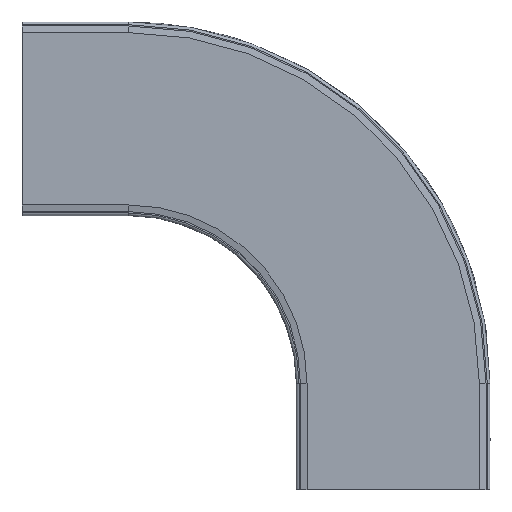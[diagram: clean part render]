
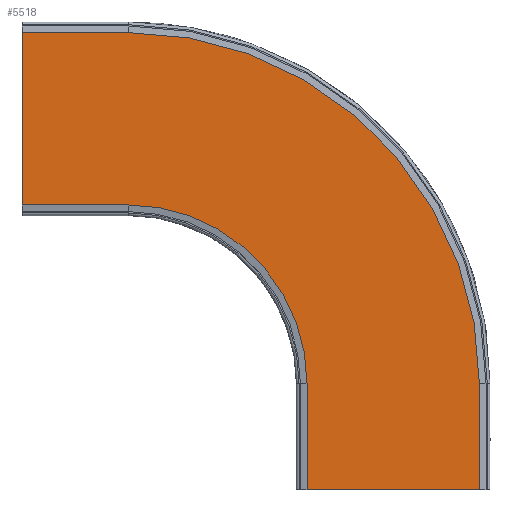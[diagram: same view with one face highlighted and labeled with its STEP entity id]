
A CAD part, front view. The second image highlights one B-rep face of the part: STEP entity #5518.
In plain terms, the highlighted planar face has unit normal (0, -1, 0).
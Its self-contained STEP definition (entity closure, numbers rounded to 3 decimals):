
#5213=CARTESIAN_POINT('',(104.,-74.,0.0));
#5214=VERTEX_POINT('',#5213);
#5221=CARTESIAN_POINT('',(-26.,-74.,0.0));
#5222=VERTEX_POINT('',#5221);
#5223=CARTESIAN_POINT('',(-26.,-74.,0.0));
#5224=DIRECTION('',(1.0,0.0,0.0));
#5225=VECTOR('',#5224,130.);
#5226=LINE('',#5223,#5225);
#5227=EDGE_CURVE('',#5222,#5214,#5226,.T.);
#5282=CARTESIAN_POINT('',(-26.,-74.,80.0));
#5283=VERTEX_POINT('',#5282);
#5292=CARTESIAN_POINT('',(-26.,-74.,0.0));
#5293=DIRECTION('',(0.0,0.0,1.0));
#5294=VECTOR('',#5293,80.0);
#5295=LINE('',#5292,#5294);
#5296=EDGE_CURVE('',#5222,#5283,#5295,.T.);
#5308=CARTESIAN_POINT('',(-241.,-74.,345.));
#5309=VERTEX_POINT('',#5308);
#5316=CARTESIAN_POINT('',(-161.,-74.,345.));
#5317=VERTEX_POINT('',#5316);
#5318=CARTESIAN_POINT('',(-161.,-74.,345.));
#5319=DIRECTION('',(-1.0,0.0,0.0));
#5320=VECTOR('',#5319,80.0);
#5321=LINE('',#5318,#5320);
#5322=EDGE_CURVE('',#5317,#5309,#5321,.T.);
#5377=CARTESIAN_POINT('',(104.,-74.,80.0));
#5378=VERTEX_POINT('',#5377);
#5387=CARTESIAN_POINT('',(104.,-74.,0.0));
#5388=DIRECTION('',(0.0,0.0,1.0));
#5389=VECTOR('',#5388,80.0);
#5390=LINE('',#5387,#5389);
#5391=EDGE_CURVE('',#5214,#5378,#5390,.T.);
#5410=CARTESIAN_POINT('',(-161.,-74.,215.));
#5411=VERTEX_POINT('',#5410);
#5426=CARTESIAN_POINT('',(-161.,-74.,80.0));
#5427=DIRECTION('',(0.0,-1.0,0.0));
#5428=DIRECTION('',(1.0,0.0,0.0));
#5429=AXIS2_PLACEMENT_3D('',#5426,#5427,#5428);
#5430=CIRCLE('',#5429,135.);
#5431=EDGE_CURVE('',#5283,#5411,#5430,.T.);
#5485=CARTESIAN_POINT('',(233.159,-74.,345.));
#5486=DIRECTION('',(0.0,-1.0,0.0));
#5487=DIRECTION('',(1.0,0.0,0.0));
#5488=AXIS2_PLACEMENT_3D('',#5485,#5486,#5487);
#5489=PLANE('',#5488);
#5490=CARTESIAN_POINT('',(-241.,-74.,215.));
#5491=VERTEX_POINT('',#5490);
#5492=CARTESIAN_POINT('',(-241.,-74.,345.));
#5493=DIRECTION('',(0.0,0.0,-1.0));
#5494=VECTOR('',#5493,130.0);
#5495=LINE('',#5492,#5494);
#5496=EDGE_CURVE('',#5309,#5491,#5495,.T.);
#5497=ORIENTED_EDGE('',*,*,#5496,.T.);
#5498=CARTESIAN_POINT('',(-161.,-74.,215.));
#5499=DIRECTION('',(-1.0,0.0,0.0));
#5500=VECTOR('',#5499,80.0);
#5501=LINE('',#5498,#5500);
#5502=EDGE_CURVE('',#5411,#5491,#5501,.T.);
#5503=ORIENTED_EDGE('',*,*,#5502,.F.);
#5504=ORIENTED_EDGE('',*,*,#5431,.F.);
#5505=ORIENTED_EDGE('',*,*,#5296,.F.);
#5506=ORIENTED_EDGE('',*,*,#5227,.T.);
#5507=ORIENTED_EDGE('',*,*,#5391,.T.);
#5508=CARTESIAN_POINT('',(-161.,-74.,80.0));
#5509=DIRECTION('',(0.0,-1.0,0.0));
#5510=DIRECTION('',(1.0,0.0,0.0));
#5511=AXIS2_PLACEMENT_3D('',#5508,#5509,#5510);
#5512=CIRCLE('',#5511,265.);
#5513=EDGE_CURVE('',#5378,#5317,#5512,.T.);
#5514=ORIENTED_EDGE('',*,*,#5513,.T.);
#5515=ORIENTED_EDGE('',*,*,#5322,.T.);
#5516=EDGE_LOOP('',(#5497,#5503,#5504,#5505,#5506,#5507,#5514,#5515));
#5517=FACE_OUTER_BOUND('',#5516,.T.);
#5518=ADVANCED_FACE('',(#5517),#5489,.T.);
